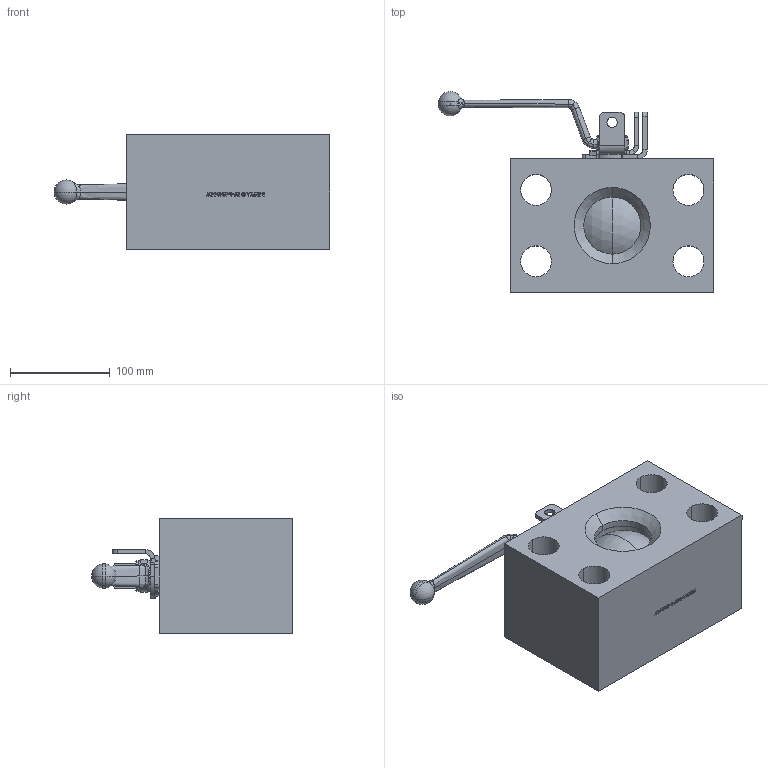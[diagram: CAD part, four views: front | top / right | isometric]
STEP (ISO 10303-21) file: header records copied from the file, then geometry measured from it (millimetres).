
FILE_DESCRIPTION (( 'STEP AP214' ), '1' );
FILE_NAME ('IBF-B-6248-N-D-T-CLOSED.STEP', '2026-02-24T14:38:20', ( '' ), ( '' ), 'SwSTEP 2.0', 'SolidWorks 2025', '' );
FILE_SCHEMA (( 'AUTOMOTIVE_DESIGN' ));
Length unit declared in the file: inch
Products named in the file (1): IBF-B-6248-N-D-T-CLOSED
Bounding box: 275.72 x 200.87 x 114.3 mm (x, y, z)
Volume: 2436358.9 mm3; surface area: 270531.4 mm2
Topology: 1 solids, 2 shells, 899 faces, 2480 edges, 1634 vertices
Faces by surface type: plane 468, bspline 214, cylinder 137, cone 35, torus 25, sphere 20
Entity records: 53127 total; most frequent: CARTESIAN_POINT 32091, ORIENTED_EDGE 4956, DIRECTION 3437, EDGE_CURVE 2478, VERTEX_POINT 1634, VECTOR 1257, LINE 1257, AXIS2_PLACEMENT_3D 1090
